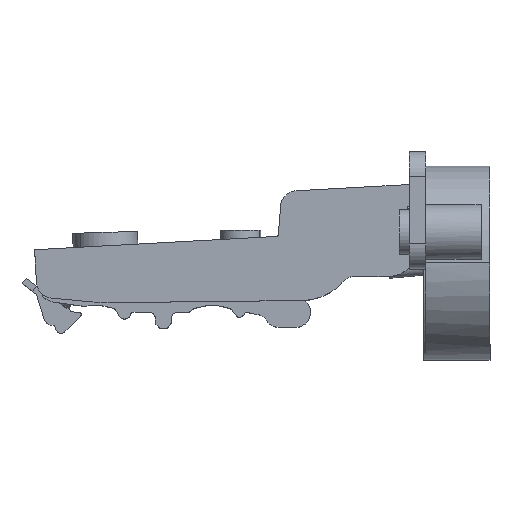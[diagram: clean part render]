
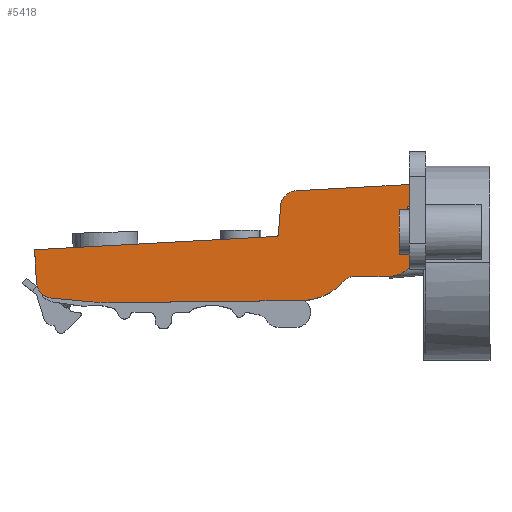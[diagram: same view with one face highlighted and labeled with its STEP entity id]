
A CAD part, top view. The second image highlights one B-rep face of the part: STEP entity #5418.
In plain terms, the highlighted planar face has unit normal (0, 0, 1).
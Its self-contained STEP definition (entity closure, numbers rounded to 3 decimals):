
#82 = VERTEX_POINT ( 'NONE', #6251 ) ;
#271 = VECTOR ( 'NONE', #1841, 1000. ) ;
#283 = CARTESIAN_POINT ( 'NONE',  ( 1.797, 6.95, 8.5 ) ) ;
#314 = CIRCLE ( 'NONE', #7641, 10. ) ;
#326 = CARTESIAN_POINT ( 'NONE',  ( -48.344, -2.287, 8.5 ) ) ;
#639 = VERTEX_POINT ( 'NONE', #10041 ) ;
#740 = EDGE_CURVE ( 'NONE', #7624, #82, #2202, .T. ) ;
#762 = CARTESIAN_POINT ( 'NONE',  ( -18.703, 10.087, 8.5 ) ) ;
#776 = ORIENTED_EDGE ( 'NONE', *, *, #11801, .T. ) ;
#885 = DIRECTION ( 'NONE',  ( 0., 0., -1. ) ) ;
#980 = VECTOR ( 'NONE', #11899, 1000. ) ;
#1284 = LINE ( 'NONE', #7918, #5598 ) ;
#1412 = EDGE_CURVE ( 'NONE', #10168, #9370, #1284, .T. ) ;
#1624 = DIRECTION ( 'NONE',  ( 0., 0., 1. ) ) ;
#1627 = ORIENTED_EDGE ( 'NONE', *, *, #6591, .T. ) ;
#1694 = AXIS2_PLACEMENT_3D ( 'NONE', #3618, #8241, #2755 ) ;
#1841 = DIRECTION ( 'NONE',  ( -0.998, -0.055, 0. ) ) ;
#1867 = FACE_OUTER_BOUND ( 'NONE', #4954, .T. ) ;
#2059 = CARTESIAN_POINT ( 'NONE',  ( -18.204, 10.049, 8.5 ) ) ;
#2144 = CIRCLE ( 'NONE', #8658, 0.5 ) ;
#2202 = LINE ( 'NONE', #3836, #271 ) ;
#2317 = CARTESIAN_POINT ( 'NONE',  ( -48.681, 27.711, 8.5 ) ) ;
#2529 = DIRECTION ( 'NONE',  ( 1., 0., 0. ) ) ;
#2640 = ORIENTED_EDGE ( 'NONE', *, *, #5636, .T. ) ;
#2677 = LINE ( 'NONE', #6439, #980 ) ;
#2755 = DIRECTION ( 'NONE',  ( 1., 0., 0. ) ) ;
#2807 = CIRCLE ( 'NONE', #10063, 3. ) ;
#2922 = CIRCLE ( 'NONE', #6470, 3. ) ;
#2970 = CARTESIAN_POINT ( 'NONE',  ( -48.344, -2.287, 8.5 ) ) ;
#3049 = VERTEX_POINT ( 'NONE', #11759 ) ;
#3089 = VECTOR ( 'NONE', #11617, 1000. ) ;
#3108 = VECTOR ( 'NONE', #4470, 1000. ) ;
#3113 = DIRECTION ( 'NONE',  ( 1., 0., 0. ) ) ;
#3128 = CARTESIAN_POINT ( 'NONE',  ( -4.882, 0.375, 8.5 ) ) ;
#3131 = LINE ( 'NONE', #326, #3089 ) ;
#3228 = DIRECTION ( 'NONE',  ( -0.998, -0.055, 0. ) ) ;
#3240 = DIRECTION ( 'NONE',  ( 0., 0., 1. ) ) ;
#3252 = CARTESIAN_POINT ( 'NONE',  ( 5.255, 4.072, 8.5 ) ) ;
#3396 = CARTESIAN_POINT ( 'NONE',  ( -13.954, -1.901, 8.5 ) ) ;
#3496 = AXIS2_PLACEMENT_3D ( 'NONE', #3128, #9714, #9768 ) ;
#3559 = VECTOR ( 'NONE', #8635, 1000. ) ;
#3618 = CARTESIAN_POINT ( 'NONE',  ( -14.834, 14.798, 8.5 ) ) ;
#3752 = CARTESIAN_POINT ( 'NONE',  ( -17.825, 15.026, 8.5 ) ) ;
#3764 = VERTEX_POINT ( 'NONE', #2970 ) ;
#3836 = CARTESIAN_POINT ( 'NONE',  ( -22.489, 9.378, 8.5 ) ) ;
#3908 = AXIS2_PLACEMENT_3D ( 'NONE', #283, #4060, #7839 ) ;
#4060 = DIRECTION ( 'NONE',  ( 0., 0., 1. ) ) ;
#4066 = AXIS2_PLACEMENT_3D ( 'NONE', #2317, #1624, #8964 ) ;
#4090 = CARTESIAN_POINT ( 'NONE',  ( -58.638, 1.526, 8.5 ) ) ;
#4275 = VECTOR ( 'NONE', #5830, 1000. ) ;
#4353 = LINE ( 'NONE', #9142, #3108 ) ;
#4470 = DIRECTION ( 'NONE',  ( 0., -1., 0. ) ) ;
#4485 = DIRECTION ( 'NONE',  ( 1., 0., 0. ) ) ;
#4609 = DIRECTION ( 'NONE',  ( 0., 0., 1. ) ) ;
#4667 = DIRECTION ( 'NONE',  ( 1., 0., 0. ) ) ;
#4789 = CARTESIAN_POINT ( 'NONE',  ( 5.255, 18.906, 8.5 ) ) ;
#4874 = EDGE_CURVE ( 'NONE', #5364, #639, #6849, .T. ) ;
#4945 = CARTESIAN_POINT ( 'NONE',  ( -14.998, 17.794, 8.5 ) ) ;
#4954 = EDGE_LOOP ( 'NONE', ( #7206, #10263, #776, #7220, #6356, #10010, #11979, #1627, #5876, #6075, #10186, #10916, #11893, #2640, #8578 ) ) ;
#4977 = EDGE_CURVE ( 'NONE', #10168, #8561, #4353, .T. ) ;
#5230 = EDGE_CURVE ( 'NONE', #3764, #11817, #3131, .T. ) ;
#5351 = EDGE_CURVE ( 'NONE', #3049, #3764, #8785, .T. ) ;
#5364 = VERTEX_POINT ( 'NONE', #8058 ) ;
#5418 = ADVANCED_FACE ( 'NONE', ( #1867 ), #8488, .T. ) ;
#5425 = DIRECTION ( 'NONE',  ( 0., 0., 1. ) ) ;
#5463 = VECTOR ( 'NONE', #5906, 1000. ) ;
#5598 = VECTOR ( 'NONE', #3228, 1000. ) ;
#5636 = EDGE_CURVE ( 'NONE', #639, #7472, #7378, .T. ) ;
#5674 = CARTESIAN_POINT ( 'NONE',  ( -61.617, 1.172, 8.5 ) ) ;
#5830 = DIRECTION ( 'NONE',  ( -0.076, -0.997, 0. ) ) ;
#5876 = ORIENTED_EDGE ( 'NONE', *, *, #10499, .T. ) ;
#5906 = DIRECTION ( 'NONE',  ( 1., 0.011, 0. ) ) ;
#5959 = EDGE_CURVE ( 'NONE', #11817, #5364, #314, .T. ) ;
#6067 = EDGE_CURVE ( 'NONE', #11749, #10200, #6830, .T. ) ;
#6075 = ORIENTED_EDGE ( 'NONE', *, *, #5351, .T. ) ;
#6251 = CARTESIAN_POINT ( 'NONE',  ( -61.948, 7.211, 8.5 ) ) ;
#6356 = ORIENTED_EDGE ( 'NONE', *, *, #8333, .T. ) ;
#6439 = CARTESIAN_POINT ( 'NONE',  ( -61.899, 6.312, 8.5 ) ) ;
#6470 = AXIS2_PLACEMENT_3D ( 'NONE', #4090, #3240, #3113 ) ;
#6591 = EDGE_CURVE ( 'NONE', #11972, #10487, #2922, .T. ) ;
#6830 = LINE ( 'NONE', #3752, #4275 ) ;
#6849 = CIRCLE ( 'NONE', #3496, 2. ) ;
#6859 = CARTESIAN_POINT ( 'NONE',  ( -58.918, -1.461, 8.5 ) ) ;
#7206 = ORIENTED_EDGE ( 'NONE', *, *, #4977, .F. ) ;
#7220 = ORIENTED_EDGE ( 'NONE', *, *, #6067, .T. ) ;
#7268 = EDGE_CURVE ( 'NONE', #7472, #8561, #9209, .T. ) ;
#7378 = LINE ( 'NONE', #8687, #5463 ) ;
#7472 = VERTEX_POINT ( 'NONE', #12157 ) ;
#7624 = VERTEX_POINT ( 'NONE', #7871 ) ;
#7641 = AXIS2_PLACEMENT_3D ( 'NONE', #9156, #4609, #4485 ) ;
#7839 = DIRECTION ( 'NONE',  ( 1., 0., 0. ) ) ;
#7871 = CARTESIAN_POINT ( 'NONE',  ( -18.675, 9.588, 8.5 ) ) ;
#7918 = CARTESIAN_POINT ( 'NONE',  ( -0.519, 18.589, 8.5 ) ) ;
#8058 = CARTESIAN_POINT ( 'NONE',  ( -6.413, 1.662, 8.5 ) ) ;
#8083 = CARTESIAN_POINT ( 'NONE',  ( -17.825, 15.026, 8.5 ) ) ;
#8241 = DIRECTION ( 'NONE',  ( 0., 0., 1. ) ) ;
#8333 = EDGE_CURVE ( 'NONE', #10200, #7624, #2144, .T. ) ;
#8413 = LINE ( 'NONE', #8701, #3559 ) ;
#8488 = PLANE ( 'NONE',  #1694 ) ;
#8561 = VERTEX_POINT ( 'NONE', #3252 ) ;
#8578 = ORIENTED_EDGE ( 'NONE', *, *, #7268, .T. ) ;
#8635 = DIRECTION ( 'NONE',  ( 0.996, -0.093, 0. ) ) ;
#8658 = AXIS2_PLACEMENT_3D ( 'NONE', #762, #885, #4667 ) ;
#8687 = CARTESIAN_POINT ( 'NONE',  ( -4.905, 2.375, 8.5 ) ) ;
#8701 = CARTESIAN_POINT ( 'NONE',  ( -58.918, -1.461, 8.5 ) ) ;
#8785 = CIRCLE ( 'NONE', #4066, 30. ) ;
#8964 = DIRECTION ( 'NONE',  ( 1., 0., 0. ) ) ;
#9105 = EDGE_CURVE ( 'NONE', #82, #11972, #2677, .T. ) ;
#9142 = CARTESIAN_POINT ( 'NONE',  ( 5.255, 14.798, 8.5 ) ) ;
#9156 = CARTESIAN_POINT ( 'NONE',  ( -14.067, 8.098, 8.5 ) ) ;
#9209 = CIRCLE ( 'NONE', #3908, 4.5 ) ;
#9370 = VERTEX_POINT ( 'NONE', #4945 ) ;
#9714 = DIRECTION ( 'NONE',  ( 0., 0., -1. ) ) ;
#9768 = DIRECTION ( 'NONE',  ( 1., 0., 0. ) ) ;
#10010 = ORIENTED_EDGE ( 'NONE', *, *, #740, .T. ) ;
#10041 = CARTESIAN_POINT ( 'NONE',  ( -4.905, 2.375, 8.5 ) ) ;
#10063 = AXIS2_PLACEMENT_3D ( 'NONE', #11825, #5425, #2529 ) ;
#10168 = VERTEX_POINT ( 'NONE', #4789 ) ;
#10186 = ORIENTED_EDGE ( 'NONE', *, *, #5230, .T. ) ;
#10200 = VERTEX_POINT ( 'NONE', #2059 ) ;
#10263 = ORIENTED_EDGE ( 'NONE', *, *, #1412, .T. ) ;
#10487 = VERTEX_POINT ( 'NONE', #6859 ) ;
#10499 = EDGE_CURVE ( 'NONE', #10487, #3049, #8413, .T. ) ;
#10916 = ORIENTED_EDGE ( 'NONE', *, *, #5959, .T. ) ;
#11617 = DIRECTION ( 'NONE',  ( 1., 0.011, 0. ) ) ;
#11749 = VERTEX_POINT ( 'NONE', #8083 ) ;
#11759 = CARTESIAN_POINT ( 'NONE',  ( -51.481, -2.158, 8.5 ) ) ;
#11801 = EDGE_CURVE ( 'NONE', #9370, #11749, #2807, .T. ) ;
#11817 = VERTEX_POINT ( 'NONE', #3396 ) ;
#11825 = CARTESIAN_POINT ( 'NONE',  ( -14.834, 14.798, 8.5 ) ) ;
#11893 = ORIENTED_EDGE ( 'NONE', *, *, #4874, .T. ) ;
#11899 = DIRECTION ( 'NONE',  ( 0.055, -0.998, 0. ) ) ;
#11972 = VERTEX_POINT ( 'NONE', #5674 ) ;
#11979 = ORIENTED_EDGE ( 'NONE', *, *, #9105, .T. ) ;
#12157 = CARTESIAN_POINT ( 'NONE',  ( 1.847, 2.451, 8.5 ) ) ;
